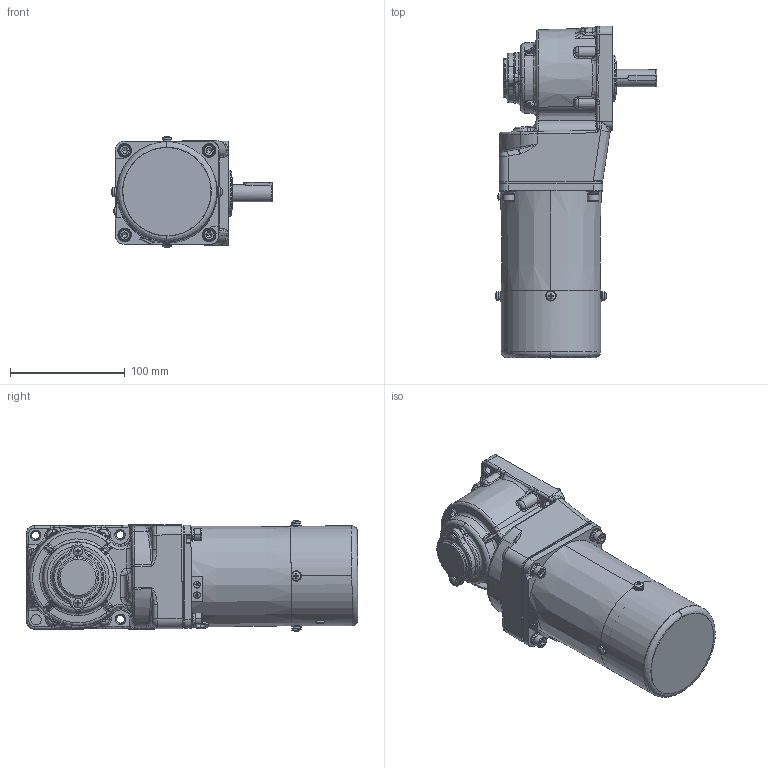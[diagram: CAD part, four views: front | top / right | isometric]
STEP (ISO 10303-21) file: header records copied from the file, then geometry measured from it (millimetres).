
FILE_DESCRIPTION (( 'STEP AP203' ), '1' );
FILE_NAME ('5RK40GU-CM(5GU3RT-180RT)ÐÂ.STEP', '2022-02-24T00:11:39', ( 'PC' ), ( 'Microsoft' ), 'SwSTEP 2.0', 'SolidWorks 2014', '' );
FILE_SCHEMA (( 'CONFIG_CONTROL_DESIGN' ));
Length unit declared in the file: millimetre
Products named in the file (9): 5RK40GU-CM(5GU3RT-180RT)陔; zd-5gu-50rc-504-001m#眊极禱矗 2021-12-07 - 萵掛; 90妗陑怀堤粣; 90壔裔; ZD-5GU50RC-505-003綴傷裔; 90RT妗陑怀堤傷裔; hexagon socket head cap screws gb_GB_FASTENER_SCREWS_HSHCS M5X12-N; cross recessed pan head screws gb_GB_CROSS_SCREWS_TYPE1 M4X6-6  H type-N; 5RK40GU-CM(5GU3RC-180RC)
Assembly tree (12 placements, depth 2):
  5RK40GU-CM(5GU3RT-180RT)陔
    zd-5gu-50rc-504-001m#眊极禱矗 2021-12-07 - 萵掛
    90妗陑怀堤粣
    90壔裔
    ZD-5GU50RC-505-003綴傷裔
    90RT妗陑怀堤傷裔
    hexagon socket head cap screws gb_GB_FASTENER_SCREWS_HSHCS M5X12-N  x4
    cross recessed pan head screws gb_GB_CROSS_SCREWS_TYPE1 M4X6-6  H type-N  x2
    5RK40GU-CM(5GU3RC-180RC)
Bounding box: 140.35 x 288.95 x 96.71 mm (x, y, z)
Volume: 809179.5 mm3; surface area: 214974.9 mm2
Topology: 35 solids, 45 shells, 2069 faces, 5057 edges, 3031 vertices
Faces by surface type: plane 642, bspline 465, cylinder 459, cone 406, torus 91, sphere 6
Entity records: 85191 total; most frequent: CARTESIAN_POINT 41892, ORIENTED_EDGE 9426, DIRECTION 8018, EDGE_CURVE 4714, AXIS2_PLACEMENT_3D 3192, VERTEX_POINT 2891, EDGE_LOOP 2092, FACE_OUTER_BOUND 1970
